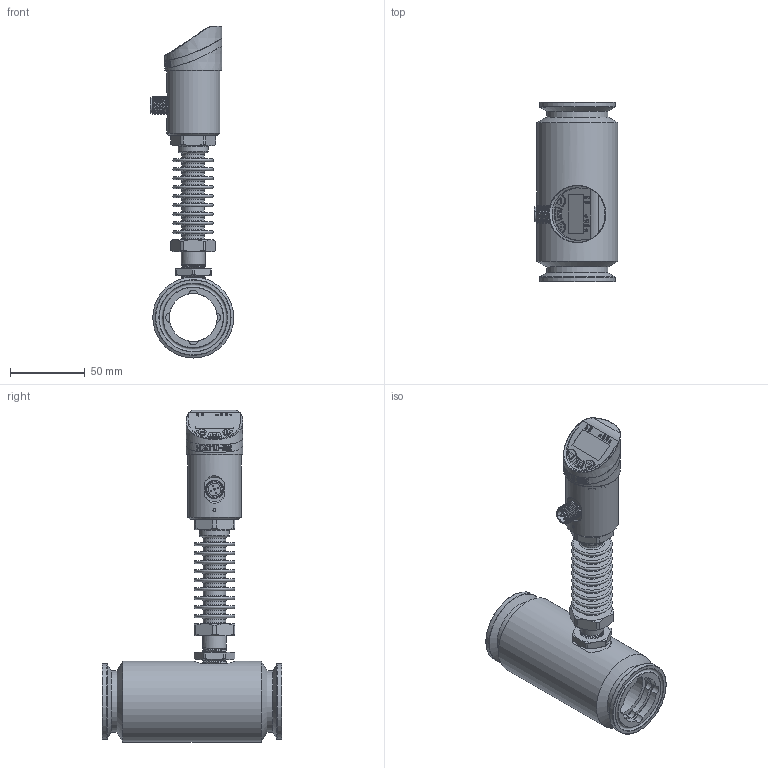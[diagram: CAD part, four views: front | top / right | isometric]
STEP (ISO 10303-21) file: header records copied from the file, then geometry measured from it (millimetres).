
FILE_DESCRIPTION( (''), '2;1');
FILE_NAME( 'QTKE_DN32_tri-clamp_high-temp.step', '2024-10-14T16:43:46+08:00', (''), (''), '', '', '');
FILE_SCHEMA (('AUTOMOTIVE_DESIGN { 1 0 10303 214 3 1 1 1 }'));
Length unit declared in the file: millimetre
Products named in the file (1): QTKE DN32_tri-clamp_high-temp
Bounding box: 55.66 x 120 x 221.5 mm (x, y, z)
Volume: 198711.5 mm3; surface area: 83030.4 mm2
Topology: 5 solids, 5 shells, 1050 faces, 2673 edges, 1728 vertices
Faces by surface type: plane 421, cylinder 206, extrusion 160, cone 113, torus 70, bspline 59, sphere 21
Full cylindrical faces by diameter (mm): 1.689 x1, 2 x1, 2.7 x6, 3.5 x5, 12 x1, 13 x1, 15 x10, 15.9 x1, 16.5 x1, 20 x1, 23 x3, 26 x5, 31.7 x1, 32 x2, 34 x1, 34.2 x1, 35.5 x2, 36.5 x2, 38 x2, 41 x2, 50.5 x2, 54 x1
Entity records: 45612 total; most frequent: CARTESIAN_POINT 17464, ORIENTED_EDGE 4926, DIRECTION 4442, EDGE_CURVE 2463, VERTEX_POINT 1669, AXIS2_PLACEMENT_3D 1624, EDGE_LOOP 1306, VECTOR 1194
